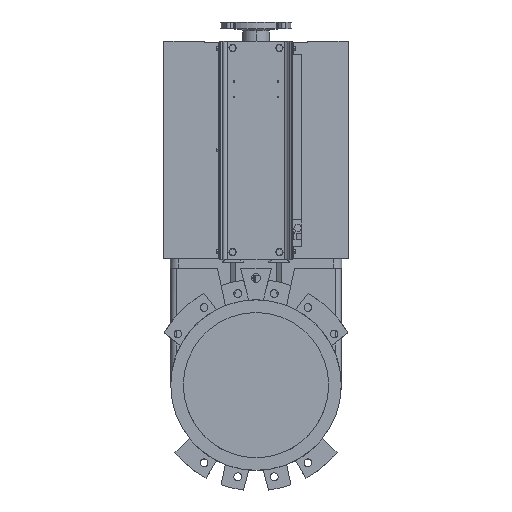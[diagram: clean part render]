
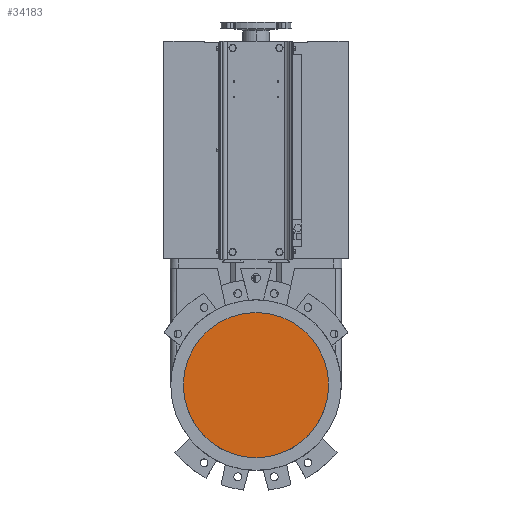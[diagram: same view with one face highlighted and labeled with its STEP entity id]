
A CAD part, top view. The second image highlights one B-rep face of the part: STEP entity #34183.
In plain terms, the highlighted planar face has unit normal (0, 0, 1).
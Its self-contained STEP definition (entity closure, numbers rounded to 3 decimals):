
#4971 = DIRECTION ( 'NONE',  ( 1., 0., 0. ) ) ;
#4972 = DIRECTION ( 'NONE',  ( 0., 0., 1. ) ) ;
#4973 = CARTESIAN_POINT ( 'NONE',  ( -187.5, -258.222, 5. ) ) ;
#4974 = AXIS2_PLACEMENT_3D ( 'NONE', #4973, #4972, #4971 ) ;
#4975 = PLANE ( 'NONE',  #4974 ) ;
#4976 = FACE_OUTER_BOUND ( 'NONE', #34251, .T. ) ;
#5068 = DIRECTION ( 'NONE',  ( 0., 1., 0. ) ) ;
#5069 = VECTOR ( 'NONE', #5068, 1000. ) ;
#5070 = CARTESIAN_POINT ( 'NONE',  ( -187.5, -258.222, 5. ) ) ;
#5071 = LINE ( 'NONE', #5070, #5069 ) ;
#5084 = DIRECTION ( 'NONE',  ( 0., 1., 0. ) ) ;
#5085 = VECTOR ( 'NONE', #5084, 1000. ) ;
#5086 = CARTESIAN_POINT ( 'NONE',  ( 187.5, -258.222, 5. ) ) ;
#5087 = LINE ( 'NONE', #5086, #5085 ) ;
#13448 = VERTEX_POINT ( 'NONE', #30042 ) ;
#13454 = EDGE_CURVE ( 'NONE', #13480, #13448, #30093, .T. ) ;
#13480 = VERTEX_POINT ( 'NONE', #30094 ) ;
#14474 = VERTEX_POINT ( 'NONE', #31823 ) ;
#14476 = EDGE_CURVE ( 'NONE', #14552, #14474, #31817, .T. ) ;
#14552 = VERTEX_POINT ( 'NONE', #31936 ) ;
#30042 = CARTESIAN_POINT ( 'NONE',  ( -187.5, 69.597, 5. ) ) ;
#30089 = DIRECTION ( 'NONE',  ( 1., 0., 0. ) ) ;
#30090 = DIRECTION ( 'NONE',  ( 0., 0., 1. ) ) ;
#30091 = CARTESIAN_POINT ( 'NONE',  ( 0., 0., 5. ) ) ;
#30092 = AXIS2_PLACEMENT_3D ( 'NONE', #30091, #30090, #30089 ) ;
#30093 = CIRCLE ( 'NONE', #30092, 200. ) ;
#30094 = CARTESIAN_POINT ( 'NONE',  ( 187.5, 69.597, 5. ) ) ;
#31813 = DIRECTION ( 'NONE',  ( 1., 0., 0. ) ) ;
#31814 = DIRECTION ( 'NONE',  ( 0., 0., 1. ) ) ;
#31816 = AXIS2_PLACEMENT_3D ( 'NONE', #31825, #31814, #31813 ) ;
#31817 = CIRCLE ( 'NONE', #31816, 199.5 ) ;
#31823 = CARTESIAN_POINT ( 'NONE',  ( 187.5, -48.147, 5. ) ) ;
#31825 = CARTESIAN_POINT ( 'NONE',  ( 0., 20., 5. ) ) ;
#31936 = CARTESIAN_POINT ( 'NONE',  ( -187.5, -48.147, 5. ) ) ;
#34122 = ORIENTED_EDGE ( 'NONE', *, *, #14476, .T. ) ;
#34183 = ADVANCED_FACE ( 'NONE', ( #4976 ), #4975, .T. ) ;
#34251 = EDGE_LOOP ( 'NONE', ( #34253, #34260, #34266, #34122 ) ) ;
#34253 = ORIENTED_EDGE ( 'NONE', *, *, #34256, .T. ) ;
#34256 = EDGE_CURVE ( 'NONE', #14474, #13480, #5087, .T. ) ;
#34260 = ORIENTED_EDGE ( 'NONE', *, *, #13454, .T. ) ;
#34266 = ORIENTED_EDGE ( 'NONE', *, *, #34271, .F. ) ;
#34271 = EDGE_CURVE ( 'NONE', #14552, #13448, #5071, .T. ) ;
